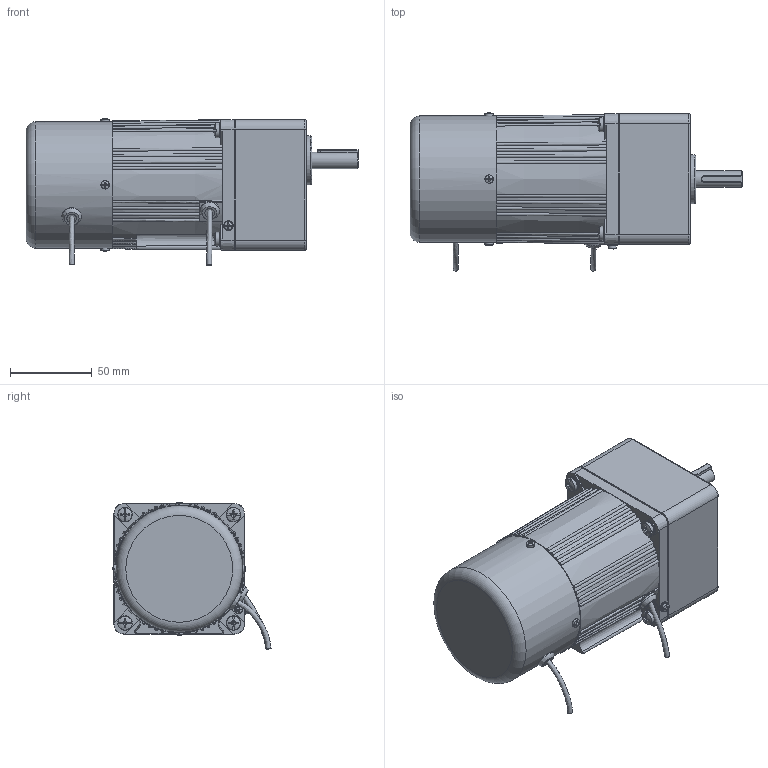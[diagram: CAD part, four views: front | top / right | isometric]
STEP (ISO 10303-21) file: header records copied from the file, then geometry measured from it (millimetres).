
FILE_DESCRIPTION(/* description */ (''),/* implementation_level */ '2;1');
FILE_NAME(/* name */ '4RK25-40CC·M-4GN25-750K-C·10L.stp',/* time_stamp */ '2024-11-02T14:14:09+08:00',/* author */ (''),/* organization */ (''),/* preprocessor_version */ 'ST-DEVELOPER v18.102',/* originating_system */ 'SIEMENS PLM Software NX 2027',/* authorisation */ '');
FILE_SCHEMA (('AP203_CONFIGURATION_CONTROLLED_3D_DESIGN_OF_MECHANICAL_PARTS_AND_ASSEMBLIES_MIM_LF { 1 0 10303 403 2 1 2}'));
Length unit declared in the file: millimetre
Products named in the file (1): 4GN25K-C·10T_stp_YF80306813E7b4yu
Bounding box: 203.5 x 96.94 x 90.03 mm (x, y, z)
Volume: 909782.5 mm3; surface area: 92930.7 mm2
Topology: 12 solids, 12 shells, 928 faces, 2419 edges, 1583 vertices
Faces by surface type: bspline 321, plane 314, cylinder 155, cone 68, torus 44, sphere 22, revolution 4
Full cylindrical faces by diameter (mm): 2.6 x1, 3 x1, 3.2 x1, 4 x5, 4.2 x8, 4.4 x1, 4.6 x4, 5 x5, 5.1 x5, 5.3 x4, 6 x9, 6.5 x4, 8 x2, 8.2 x1, 8.5 x4, 9 x4, 10 x1, 10.5 x1, 19 x1, 26 x1, 30 x1, 56 x1, 67 x1, 73 x1, 75 x2, 77.5 x1
Entity records: 35066 total; most frequent: CARTESIAN_POINT 16063, ORIENTED_EDGE 4440, DIRECTION 2647, EDGE_CURVE 2220, VERTEX_POINT 1508, B_SPLINE_CURVE_WITH_KNOTS 1275, EDGE_LOOP 1144, AXIS2_PLACEMENT_3D 1093
